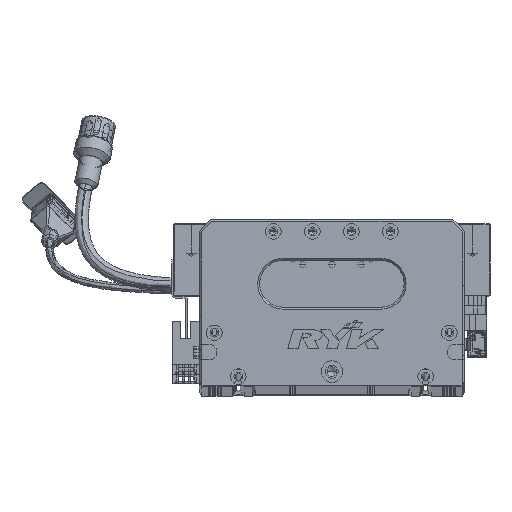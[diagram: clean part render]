
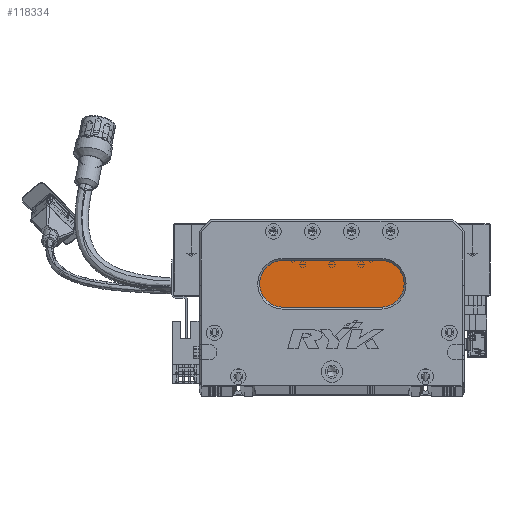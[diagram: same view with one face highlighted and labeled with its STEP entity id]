
A CAD part, top view. The second image highlights one B-rep face of the part: STEP entity #118334.
In plain terms, the highlighted planar face has unit normal (0, 0, 1) as drawn and (0, 0, -1) by its records, which use the part's own axes.
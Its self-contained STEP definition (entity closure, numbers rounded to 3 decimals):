
#1404 = DIRECTION ( 'NONE',  ( 0., 0., -1. ) ) ;
#4671 = VECTOR ( 'NONE', #42557, 1000. ) ;
#8496 = VERTEX_POINT ( 'NONE', #118726 ) ;
#8620 = AXIS2_PLACEMENT_3D ( 'NONE', #101192, #111577, #102593 ) ;
#10714 = DIRECTION ( 'NONE',  ( 0., 0., -1. ) ) ;
#18644 = EDGE_CURVE ( 'NONE', #35619, #125747, #88070, .T. ) ;
#28607 = CARTESIAN_POINT ( 'NONE',  ( 43., 40., 13. ) ) ;
#32755 = CARTESIAN_POINT ( 'NONE',  ( 31., 52., 13. ) ) ;
#35619 = VERTEX_POINT ( 'NONE', #58950 ) ;
#36766 = FACE_OUTER_BOUND ( 'NONE', #39832, .T. ) ;
#39832 = EDGE_LOOP ( 'NONE', ( #64284, #109140, #100997, #72317, #129008 ) ) ;
#40023 = LINE ( 'NONE', #118366, #4671 ) ;
#42557 = DIRECTION ( 'NONE',  ( 1., 0., 0. ) ) ;
#44645 = CARTESIAN_POINT ( 'NONE',  ( 43., 52., 13. ) ) ;
#45051 = CIRCLE ( 'NONE', #101858, 12. ) ;
#57014 = DIRECTION ( 'NONE',  ( -1., 0., 0. ) ) ;
#58735 = EDGE_CURVE ( 'NONE', #135760, #8496, #107217, .T. ) ;
#58950 = CARTESIAN_POINT ( 'NONE',  ( 93., 40., 13. ) ) ;
#64284 = ORIENTED_EDGE ( 'NONE', *, *, #73833, .T. ) ;
#72317 = ORIENTED_EDGE ( 'NONE', *, *, #58735, .T. ) ;
#73833 = EDGE_CURVE ( 'NONE', #110938, #35619, #45051, .T. ) ;
#75619 = PLANE ( 'NONE',  #135401 ) ;
#80766 = DIRECTION ( 'NONE',  ( -1., 0., 0. ) ) ;
#83068 = VECTOR ( 'NONE', #57014, 1000. ) ;
#88070 = LINE ( 'NONE', #100311, #83068 ) ;
#98341 = DIRECTION ( 'NONE',  ( -1., 0., 0. ) ) ;
#100311 = CARTESIAN_POINT ( 'NONE',  ( 93., 40., 13. ) ) ;
#100997 = ORIENTED_EDGE ( 'NONE', *, *, #132666, .T. ) ;
#101192 = CARTESIAN_POINT ( 'NONE',  ( 43., 52., 13. ) ) ;
#101858 = AXIS2_PLACEMENT_3D ( 'NONE', #121766, #134463, #80766 ) ;
#102593 = DIRECTION ( 'NONE',  ( -1., 0., 0. ) ) ;
#105017 = CIRCLE ( 'NONE', #8620, 12. ) ;
#105795 = AXIS2_PLACEMENT_3D ( 'NONE', #44645, #1404, #98341 ) ;
#107217 = CIRCLE ( 'NONE', #105795, 12. ) ;
#108174 = DIRECTION ( 'NONE',  ( -1., 0., 0. ) ) ;
#109140 = ORIENTED_EDGE ( 'NONE', *, *, #18644, .T. ) ;
#110938 = VERTEX_POINT ( 'NONE', #124858 ) ;
#111577 = DIRECTION ( 'NONE',  ( 0., 0., -1. ) ) ;
#118334 = ADVANCED_FACE ( 'NONE', ( #36766 ), #75619, .T. ) ;
#118366 = CARTESIAN_POINT ( 'NONE',  ( 93., 64., 13. ) ) ;
#118726 = CARTESIAN_POINT ( 'NONE',  ( 43., 64., 13. ) ) ;
#121766 = CARTESIAN_POINT ( 'NONE',  ( 93., 52., 13. ) ) ;
#124858 = CARTESIAN_POINT ( 'NONE',  ( 93., 64., 13. ) ) ;
#125747 = VERTEX_POINT ( 'NONE', #28607 ) ;
#128841 = CARTESIAN_POINT ( 'NONE',  ( 93., 52., 13. ) ) ;
#129008 = ORIENTED_EDGE ( 'NONE', *, *, #138482, .T. ) ;
#132666 = EDGE_CURVE ( 'NONE', #125747, #135760, #105017, .T. ) ;
#134463 = DIRECTION ( 'NONE',  ( 0., 0., -1. ) ) ;
#135401 = AXIS2_PLACEMENT_3D ( 'NONE', #128841, #10714, #108174 ) ;
#135760 = VERTEX_POINT ( 'NONE', #32755 ) ;
#138482 = EDGE_CURVE ( 'NONE', #8496, #110938, #40023, .T. ) ;
